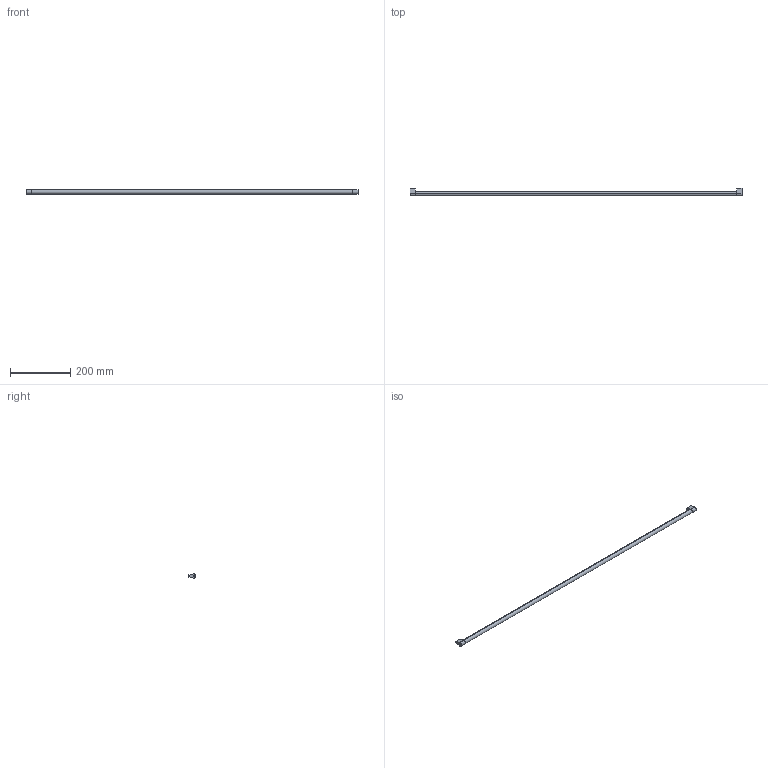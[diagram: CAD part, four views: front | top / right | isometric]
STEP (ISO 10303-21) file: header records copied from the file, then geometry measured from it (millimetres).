
FILE_DESCRIPTION (( 'STEP AP214' ), '1' );
FILE_NAME ('_Synchronisationseinheit DWD XP KAB1200_S18.step', '2010-07-08T13:58:24', ( 'grass' ), ( '' ), 'SwSTEP 2.0', 'SolidWorks 2010', '' );
FILE_SCHEMA (( 'AUTOMOTIVE_DESIGN' ));
Length unit declared in the file: millimetre
Products named in the file (1): _Synchronisationseinheit DWD XP KAB1200_S18
Bounding box: 1103 x 26.5 x 14 mm (x, y, z)
Volume: 173480.5 mm3; surface area: 51359.5 mm2
Topology: 3 solids, 3 shells, 36 faces, 78 edges, 52 vertices
Faces by surface type: cylinder 18, plane 18
Entity records: 1050 total; most frequent: DIRECTION 188, CARTESIAN_POINT 167, ORIENTED_EDGE 156, EDGE_CURVE 78, AXIS2_PLACEMENT_3D 73, VERTEX_POINT 52, VECTOR 42, LINE 42
